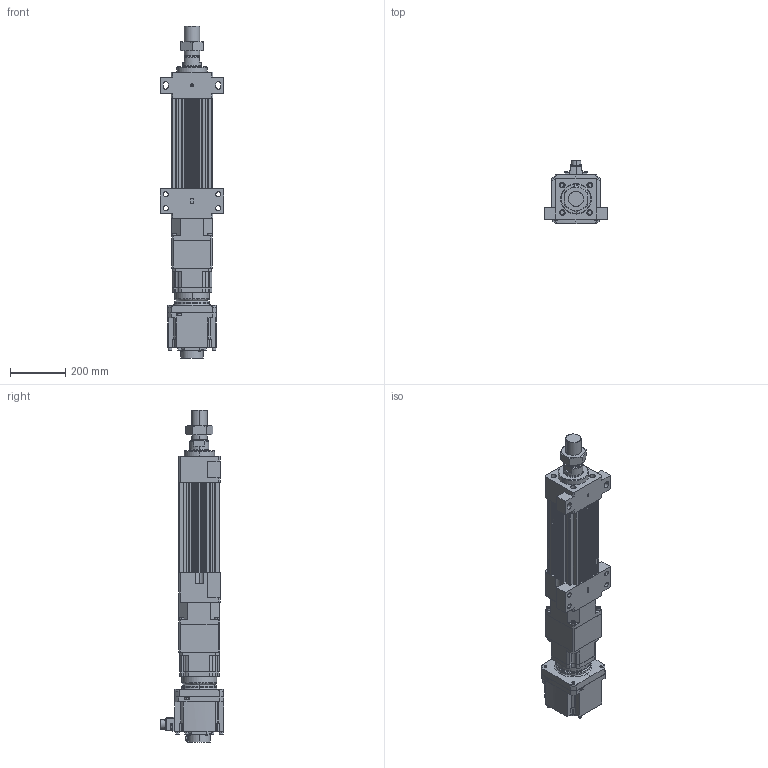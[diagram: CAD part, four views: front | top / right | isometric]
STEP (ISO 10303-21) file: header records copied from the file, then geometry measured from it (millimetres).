
FILE_DESCRIPTION (( 'STEP AP203' ), '1' );
FILE_NAME ('HES150NS(HS)-S050-W035G00-M-FFB.STEP', '2023-01-31T12:24:29', ( 'tms' ), ( '' ), 'SwSTEP 2.0', 'SolidWorks 2013', '' );
FILE_SCHEMA (( 'CONFIG_CONTROL_DESIGN' ));
Length unit declared in the file: millimetre
Products named in the file (9): P0403500801; P1301500001; HG-SR352; HES150-S050-G142-FFB; HES150 ROD M ST050; AB142-003[HG-SR352]; HES150NS(HS)-S050-W035G00-M-FFB; AB1421; M56X2.0P
Assembly tree (8 placements, depth 3):
  HES150NS(HS)-S050-W035G00-M-FFB
    HES150-S050-G142-FFB
    HES150 ROD M ST050
    M56X2.0P
    AB142-003[HG-SR352]
      AB1421
      P1301500001
      P0403500801
    HG-SR352
Bounding box: 230 x 228.85 x 1197.5 mm (x, y, z)
Volume: 13910711.6 mm3; surface area: 1431698.9 mm2
Topology: 5 solids, 23 shells, 1522 faces, 3951 edges, 2569 vertices
Faces by surface type: cylinder 691, plane 599, cone 150, bspline 76, torus 6
Entity records: 55583 total; most frequent: CARTESIAN_POINT 16843, DIRECTION 8091, ORIENTED_EDGE 7808, EDGE_CURVE 3926, AXIS2_PLACEMENT_3D 3042, VERTEX_POINT 2569, LINE 2007, VECTOR 2007
